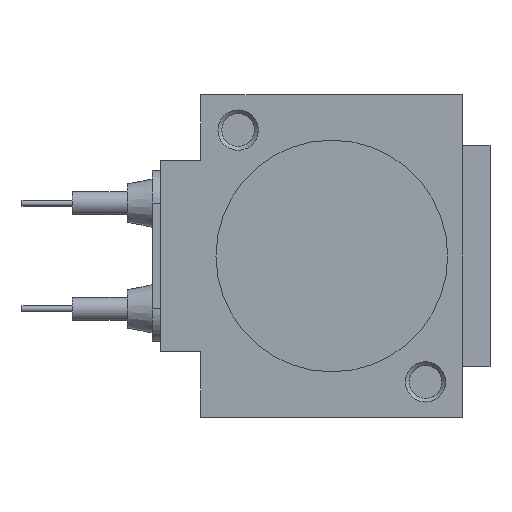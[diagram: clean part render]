
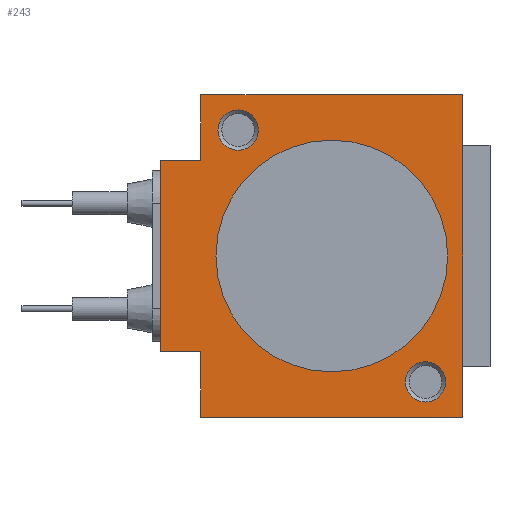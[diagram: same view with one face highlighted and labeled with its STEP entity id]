
A CAD part, front view. The second image highlights one B-rep face of the part: STEP entity #243.
In plain terms, the highlighted planar face has unit normal (0, -1, 0).
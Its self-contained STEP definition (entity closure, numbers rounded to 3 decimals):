
#243 = ADVANCED_FACE( '', ( #553, #554, #555, #556 ), #557, .F. );
#553 = FACE_BOUND( '', #939, .T. );
#554 = FACE_BOUND( '', #940, .T. );
#555 = FACE_BOUND( '', #941, .T. );
#556 = FACE_OUTER_BOUND( '', #942, .T. );
#557 = PLANE( '', #943 );
#939 = EDGE_LOOP( '', ( #1569 ) );
#940 = EDGE_LOOP( '', ( #1570 ) );
#941 = EDGE_LOOP( '', ( #1571 ) );
#942 = EDGE_LOOP( '', ( #1572, #1573, #1574, #1575, #1576, #1577, #1578, #1579 ) );
#943 = AXIS2_PLACEMENT_3D( '', #1580, #1581, #1582 );
#1569 = ORIENTED_EDGE( '', *, *, #2230, .F. );
#1570 = ORIENTED_EDGE( '', *, *, #2231, .F. );
#1571 = ORIENTED_EDGE( '', *, *, #2055, .T. );
#1572 = ORIENTED_EDGE( '', *, *, #2194, .T. );
#1573 = ORIENTED_EDGE( '', *, *, #2053, .F. );
#1574 = ORIENTED_EDGE( '', *, *, #2232, .T. );
#1575 = ORIENTED_EDGE( '', *, *, #2140, .T. );
#1576 = ORIENTED_EDGE( '', *, *, #2063, .T. );
#1577 = ORIENTED_EDGE( '', *, *, #2105, .T. );
#1578 = ORIENTED_EDGE( '', *, *, #2233, .F. );
#1579 = ORIENTED_EDGE( '', *, *, #2163, .F. );
#1580 = CARTESIAN_POINT( '', ( -13., 0., 16. ) );
#1581 = DIRECTION( '', ( 0., 1., 0. ) );
#1582 = DIRECTION( '', ( 0., 0., 1. ) );
#2053 = EDGE_CURVE( '', #2415, #2411, #2417, .T. );
#2055 = EDGE_CURVE( '', #2419, #2419, #2420, .T. );
#2063 = EDGE_CURVE( '', #2433, #2434, #2435, .T. );
#2105 = EDGE_CURVE( '', #2434, #2502, #2504, .T. );
#2140 = EDGE_CURVE( '', #2562, #2433, #2563, .T. );
#2163 = EDGE_CURVE( '', #2600, #2602, #2603, .T. );
#2194 = EDGE_CURVE( '', #2600, #2411, #2647, .T. );
#2230 = EDGE_CURVE( '', #2693, #2693, #2694, .T. );
#2231 = EDGE_CURVE( '', #2695, #2695, #2696, .T. );
#2232 = EDGE_CURVE( '', #2415, #2562, #2697, .T. );
#2233 = EDGE_CURVE( '', #2602, #2502, #2698, .T. );
#2411 = VERTEX_POINT( '', #2915 );
#2415 = VERTEX_POINT( '', #2921 );
#2417 = LINE( '', #2924, #2925 );
#2419 = VERTEX_POINT( '', #2927 );
#2420 = CIRCLE( '', #2928, 11.5 );
#2433 = VERTEX_POINT( '', #2945 );
#2434 = VERTEX_POINT( '', #2946 );
#2435 = LINE( '', #2947, #2948 );
#2502 = VERTEX_POINT( '', #3029 );
#2504 = LINE( '', #3032, #3033 );
#2562 = VERTEX_POINT( '', #3110 );
#2563 = LINE( '', #3111, #3112 );
#2600 = VERTEX_POINT( '', #3158 );
#2602 = VERTEX_POINT( '', #3161 );
#2603 = LINE( '', #3162, #3163 );
#2647 = LINE( '', #3220, #3221 );
#2693 = VERTEX_POINT( '', #3278 );
#2694 = CIRCLE( '', #3279, 2. );
#2695 = VERTEX_POINT( '', #3280 );
#2696 = CIRCLE( '', #3281, 2. );
#2697 = LINE( '', #3282, #3283 );
#2698 = LINE( '', #3284, #3285 );
#2915 = CARTESIAN_POINT( '', ( -13., 0., 9.5 ) );
#2921 = CARTESIAN_POINT( '', ( -17., 0., 9.5 ) );
#2924 = CARTESIAN_POINT( '', ( -17., 0., 9.5 ) );
#2925 = VECTOR( '', #3509, 1000. );
#2927 = CARTESIAN_POINT( '', ( 11.5, 0., 0. ) );
#2928 = AXIS2_PLACEMENT_3D( '', #3510, #3511, #3512 );
#2945 = CARTESIAN_POINT( '', ( -13., 0., -9.5 ) );
#2946 = CARTESIAN_POINT( '', ( -13., 0., -16. ) );
#2947 = CARTESIAN_POINT( '', ( -13., 0., 16. ) );
#2948 = VECTOR( '', #3520, 1000. );
#3029 = CARTESIAN_POINT( '', ( 13., 0., -16. ) );
#3032 = CARTESIAN_POINT( '', ( -13., 0., -16. ) );
#3033 = VECTOR( '', #3581, 1000. );
#3110 = CARTESIAN_POINT( '', ( -17., 0., -9.5 ) );
#3111 = CARTESIAN_POINT( '', ( -17., 0., -9.5 ) );
#3112 = VECTOR( '', #3628, 1000. );
#3158 = CARTESIAN_POINT( '', ( -13., 0., 16. ) );
#3161 = CARTESIAN_POINT( '', ( 13., 0., 16. ) );
#3162 = CARTESIAN_POINT( '', ( -13., 0., 16. ) );
#3163 = VECTOR( '', #3666, 1000. );
#3220 = CARTESIAN_POINT( '', ( -13., 0., 16. ) );
#3221 = VECTOR( '', #3704, 1000. );
#3278 = CARTESIAN_POINT( '', ( 9.3, 0., -14.5 ) );
#3279 = AXIS2_PLACEMENT_3D( '', #3746, #3747, #3748 );
#3280 = CARTESIAN_POINT( '', ( -9.3, 0., 10.5 ) );
#3281 = AXIS2_PLACEMENT_3D( '', #3749, #3750, #3751 );
#3282 = CARTESIAN_POINT( '', ( -17., 0., 9.5 ) );
#3283 = VECTOR( '', #3752, 1000. );
#3284 = CARTESIAN_POINT( '', ( 13., 0., 16. ) );
#3285 = VECTOR( '', #3753, 1000. );
#3509 = DIRECTION( '', ( 1., 0., 0. ) );
#3510 = CARTESIAN_POINT( '', ( 0., 0., 0. ) );
#3511 = DIRECTION( '', ( 0., 1., 0. ) );
#3512 = DIRECTION( '', ( 1., 0., 0. ) );
#3520 = DIRECTION( '', ( 0., 0., -1. ) );
#3581 = DIRECTION( '', ( 1., 0., 0. ) );
#3628 = DIRECTION( '', ( 1., 0., 0. ) );
#3666 = DIRECTION( '', ( 1., 0., 0. ) );
#3704 = DIRECTION( '', ( 0., 0., -1. ) );
#3746 = CARTESIAN_POINT( '', ( 9.3, 0., -12.5 ) );
#3747 = DIRECTION( '', ( 0., -1., 0. ) );
#3748 = DIRECTION( '', ( 0., 0., -1. ) );
#3749 = CARTESIAN_POINT( '', ( -9.3, 0., 12.5 ) );
#3750 = DIRECTION( '', ( 0., -1., 0. ) );
#3751 = DIRECTION( '', ( 0., 0., -1. ) );
#3752 = DIRECTION( '', ( 0., 0., -1. ) );
#3753 = DIRECTION( '', ( 0., 0., -1. ) );
